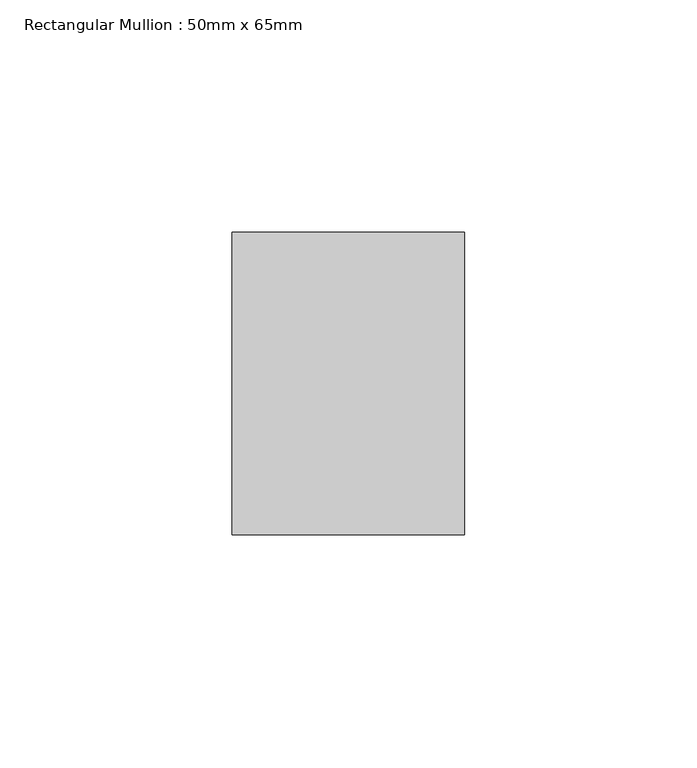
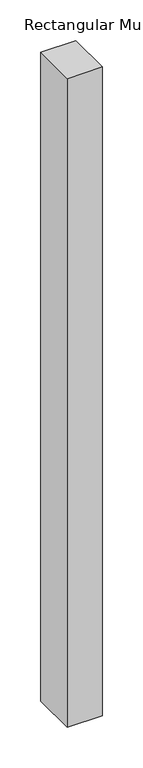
"""IFC4 building model written with IfcOpenShell, lengths in millimetres: member geometry, Rectangular Mullion : 50mm x 65mm."""

from ifc_helpers import new_model, si_unit, frame, origin, place, context, project, spatial, polyline, outline, extrude, source, transform, mapped, element, save


def rectangular_mullion_50mm_x_65mm_20714c67(model_context):
    return source(origin(), model_context, "Body", "SweptSolid", [
        extrude(outline(polyline([(25.0, 32.5), (25.0, -32.5), (-25.0, -32.5), (-25.0, 32.5), (25.0, 32.5)])), frame((0.0, 0.0, -975.0), z_axis=(0.0, 0.0, 1.0), x_axis=(1.0, 0.0, 0.0)), (0.0, 0.0, 1.0), 975.0),
    ])


if __name__ == "__main__":
    model = new_model("IFC4")
    model_context = context("Model", 3, world=origin())
    ifc_project = project(units=[si_unit("LENGTHUNIT", "METRE", prefix="MILLI")], contexts=[model_context])
    site = spatial("IfcSite", under=ifc_project)
    building = spatial("IfcBuilding", under=site)
    placement = place(None, origin())
    rectangular_mullion_50mm_x_65mm_shape = rectangular_mullion_50mm_x_65mm_20714c67(model_context)
    element("IfcMember", 1, ObjectType="Rectangular Mullion : 50mm x 65mm", at=placement, inside=building, context=model_context, shape_type="MappedRepresentation", body=[
        mapped(rectangular_mullion_50mm_x_65mm_shape, transform((0.0, 0.0, 0.0), x_axis=(1.0, 0.0, 0.0), y_axis=(0.0, 1.0, 0.0), z_axis=(0.0, 0.0, 1.0))),
    ])
    save(model, "model.ifc")
